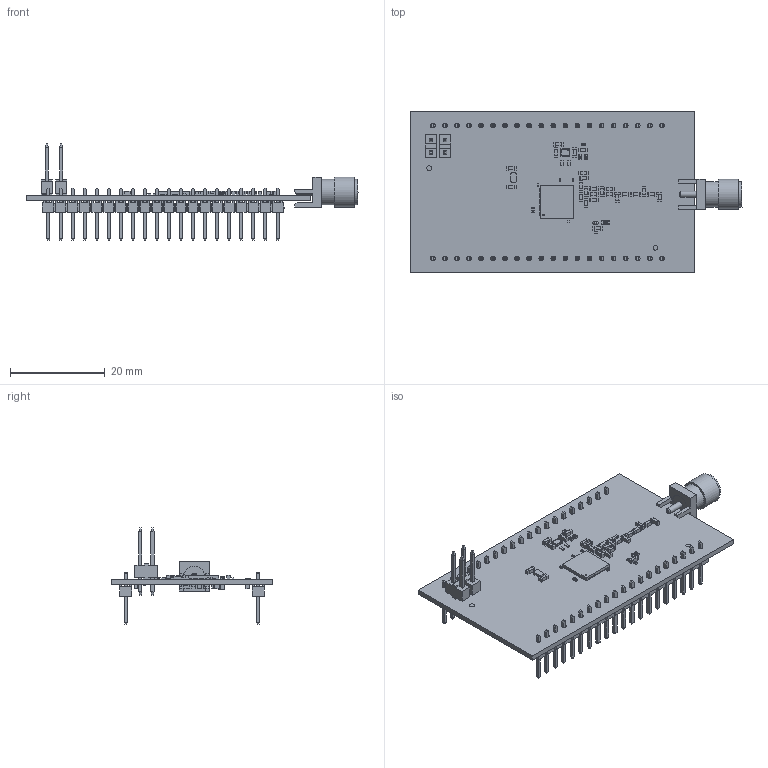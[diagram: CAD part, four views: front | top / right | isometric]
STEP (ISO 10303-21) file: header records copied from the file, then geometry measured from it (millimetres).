
FILE_DESCRIPTION(('Open CASCADE Model'),'2;1');
FILE_NAME('Open CASCADE Shape Model','2022-04-01T16:00:06',('Author'),( 'Open CASCADE'),'Open CASCADE STEP processor 6.8','Open CASCADE 6.8' ,'Unknown');
FILE_SCHEMA(('AUTOMOTIVE_DESIGN { 1 0 10303 214 1 1 1 1 }'));
Length unit declared in the file: millimetre
Products named in the file (109): PCB; Board; Open CASCADE STEP translator 6.8 1.1.1; Designator4; 6085673024; Extruded; Designator3; Designator2; Designator1; C110; 6787777600; 6787777760; SB11; 6787778640; Sphere; 6787778320; Cylinder; C18; C17; X2; OSC_NDK_NX2016SA; X1; 6085672944; U4; User_Library-QFN48_7x7; U2; 6787779600; 6787779440; R1; RESC1608X05N; L8; 6787777120; 6787776960; L7; L6; L5; L4; L3; L2; Chip_InductorINDC2012X130N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
Assembly tree (212 placements, depth 4):
  PCB
    Board
      Open CASCADE STEP translator 6.8 1.1.1
    Designator4
      6085673024
        Extruded
    Designator3
      6085673024
        Extruded
    Designator2
      6085673024
        Extruded
    Designator1
      6085673024
        Extruded
    C110
      6787777600  x2
        Extruded
      6787777760
        Extruded
    SB11
      6787778640  x2
        Sphere
      6787778320
        Cylinder
    C18
      6787777760
        Extruded
      6787777600  x2
        Extruded
    C17
      6787777600  x2
        Extruded
      6787777760
        Extruded
    X2
      OSC_NDK_NX2016SA
    X1
      6085672944
        Extruded
    U4
      User_Library-QFN48_7x7
    U2
      6787779600
        Extruded
      6787779440
        Extruded
    R1
      RESC1608X05N
    L8
      6787777120
        Extruded
      6787776960  x2
        Extruded
    L7
      6787777600  x2
        Extruded
      6787777760
        Extruded
    L6
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Bounding box: 69.95 x 34 x 20.29 mm (x, y, z)
Volume: 3315.4 mm3; surface area: 8137.5 mm2
Topology: 135 solids, 137 shells, 4819 faces, 11908 edges, 7304 vertices
Faces by surface type: plane 3604, cylinder 657, bspline 415, sphere 124, torus 18, cone 1
Full cylindrical faces by diameter (mm): 0.5 x1, 1 x44, 1.27 x2, 4.1 x1, 4.25 x1, 4.63 x1, 5.35 x2, 6.33 x1
Entity records: 94233 total; most frequent: CARTESIAN_POINT 18710, ORIENTED_EDGE 12542, DIRECTION 11510, EDGE_CURVE 6272, LINE 4966, VECTOR 4966, VERTEX_POINT 3925, AXIS2_PLACEMENT_3D 3272
